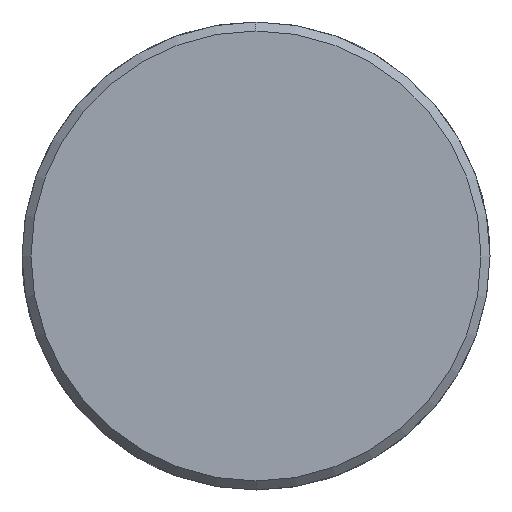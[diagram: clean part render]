
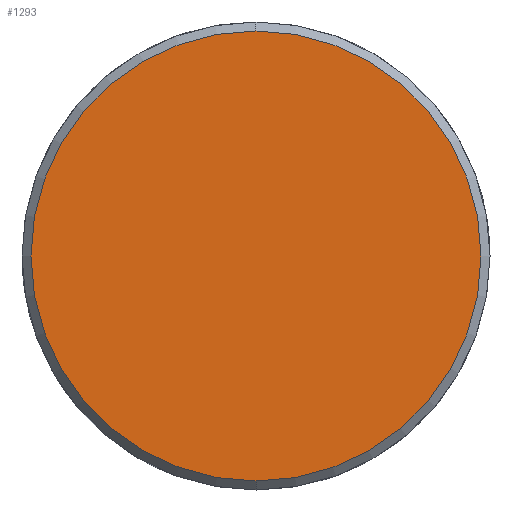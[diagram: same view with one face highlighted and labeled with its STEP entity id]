
A CAD part, left-side view. The second image highlights one B-rep face of the part: STEP entity #1293.
In plain terms, the highlighted planar face has unit normal (-1, 0, 0).
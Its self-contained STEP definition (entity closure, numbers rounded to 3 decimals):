
#1225=CARTESIAN_POINT('Vertex',(-8.,0.,-25.)) ;
#1228=CARTESIAN_POINT('Axis2P3D Location',(-8.,0.,0.)) ;
#1232=CARTESIAN_POINT('Vertex',(-8.,25.,0.)) ;
#1235=CARTESIAN_POINT('Axis2P3D Location',(-8.,0.,0.)) ;
#1239=CARTESIAN_POINT('Vertex',(-8.,0.,25.)) ;
#1261=CARTESIAN_POINT('Axis2P3D Location',(-8.,0.,0.)) ;
#1265=CARTESIAN_POINT('Vertex',(-8.,-25.,0.)) ;
#1268=CARTESIAN_POINT('Axis2P3D Location',(-8.,0.,0.)) ;
#1282=CARTESIAN_POINT('Axis2P3D Location',(-8.,0.,0.)) ;
#1229=DIRECTION('Axis2P3D Direction',(1.,0.,-0.)) ;
#1236=DIRECTION('Axis2P3D Direction',(1.,0.,-0.)) ;
#1262=DIRECTION('Axis2P3D Direction',(1.,0.,-0.)) ;
#1269=DIRECTION('Axis2P3D Direction',(1.,0.,-0.)) ;
#1283=DIRECTION('Axis2P3D Direction',(1.,0.,-0.)) ;
#1284=DIRECTION('Axis2P3D XDirection',(-0.,0.,-1.)) ;
#1230=AXIS2_PLACEMENT_3D('Circle Axis2P3D',#1228,#1229,$) ;
#1237=AXIS2_PLACEMENT_3D('Circle Axis2P3D',#1235,#1236,$) ;
#1263=AXIS2_PLACEMENT_3D('Circle Axis2P3D',#1261,#1262,$) ;
#1270=AXIS2_PLACEMENT_3D('Circle Axis2P3D',#1268,#1269,$) ;
#1285=AXIS2_PLACEMENT_3D('Plane Axis2P3D',#1282,#1283,#1284) ;
#1288=ORIENTED_EDGE('',*,*,#1234,.F.) ;
#1289=ORIENTED_EDGE('',*,*,#1272,.F.) ;
#1290=ORIENTED_EDGE('',*,*,#1267,.F.) ;
#1291=ORIENTED_EDGE('',*,*,#1241,.F.) ;
#1293=ADVANCED_FACE('351-40X116X260',(#1292),#1286,.F.) ;
#1231=CIRCLE('generated circle',#1230,25.) ;
#1238=CIRCLE('generated circle',#1237,25.) ;
#1264=CIRCLE('generated circle',#1263,25.) ;
#1271=CIRCLE('generated circle',#1270,25.) ;
#1234=EDGE_CURVE('',#1226,#1233,#1231,.T.) ;
#1241=EDGE_CURVE('',#1233,#1240,#1238,.T.) ;
#1267=EDGE_CURVE('',#1240,#1266,#1264,.T.) ;
#1272=EDGE_CURVE('',#1266,#1226,#1271,.T.) ;
#1287=EDGE_LOOP('',(#1288,#1289,#1290,#1291)) ;
#1292=FACE_OUTER_BOUND('',#1287,.T.) ;
#1286=PLANE('Plane',#1285) ;
#1226=VERTEX_POINT('',#1225) ;
#1233=VERTEX_POINT('',#1232) ;
#1240=VERTEX_POINT('',#1239) ;
#1266=VERTEX_POINT('',#1265) ;
